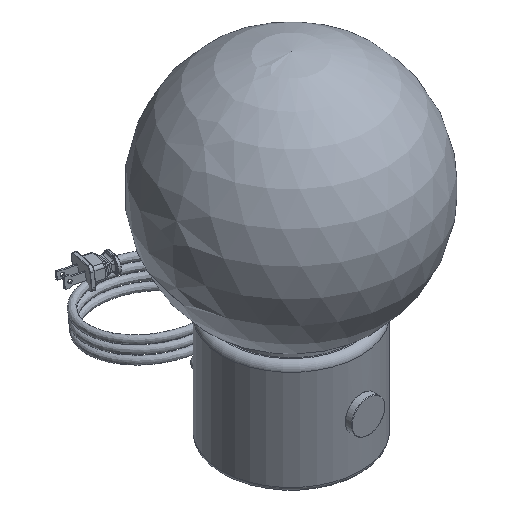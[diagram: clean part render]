
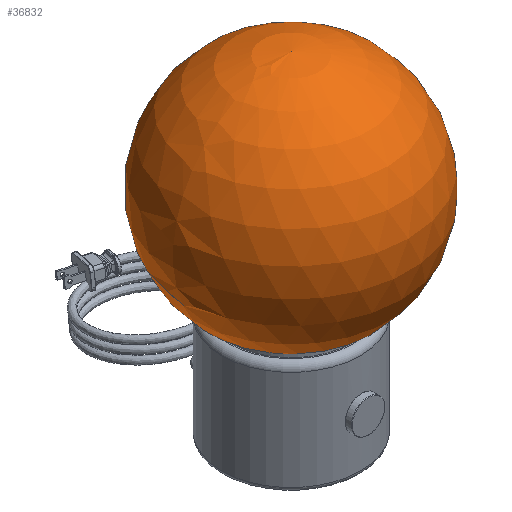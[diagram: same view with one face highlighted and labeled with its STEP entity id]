
A CAD part, isometric view. The second image highlights one B-rep face of the part: STEP entity #36832.
In plain terms, the highlighted spherical face has radius 107.95 mm.
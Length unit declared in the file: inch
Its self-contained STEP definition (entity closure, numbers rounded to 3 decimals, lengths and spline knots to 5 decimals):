
#100=SPHERICAL_SURFACE('',#38635,4.25);
#5962=FACE_OUTER_BOUND('',#8162,.T.);
#8162=EDGE_LOOP('',(#34679,#34680,#34681,#34682));
#15118=CIRCLE('',#38632,2.);
#15119=CIRCLE('',#38633,2.);
#15120=CIRCLE('',#38636,4.25);
#18635=VERTEX_POINT('',#78137);
#18636=VERTEX_POINT('',#78139);
#18637=VERTEX_POINT('',#78144);
#23984=EDGE_CURVE('',#18635,#18636,#15118,.T.);
#23985=EDGE_CURVE('',#18636,#18635,#15119,.T.);
#23986=EDGE_CURVE('',#18637,#18636,#15120,.T.);
#34679=ORIENTED_EDGE('',*,*,#23985,.F.);
#34680=ORIENTED_EDGE('',*,*,#23986,.F.);
#34681=ORIENTED_EDGE('',*,*,#23986,.T.);
#34682=ORIENTED_EDGE('',*,*,#23984,.F.);
#36832=ADVANCED_FACE('',(#5962),#100,.T.);
#38632=AXIS2_PLACEMENT_3D('',#78140,#45137,#45138);
#38633=AXIS2_PLACEMENT_3D('',#78141,#45139,#45140);
#38635=AXIS2_PLACEMENT_3D('',#78143,#45143,#45144);
#38636=AXIS2_PLACEMENT_3D('',#78145,#45145,#45146);
#45137=DIRECTION('center_axis',(0.,0.,-1.));
#45138=DIRECTION('ref_axis',(1.,0.,0.));
#45139=DIRECTION('center_axis',(0.,0.,-1.));
#45140=DIRECTION('ref_axis',(1.,0.,0.));
#45143=DIRECTION('center_axis',(0.,0.,1.));
#45144=DIRECTION('ref_axis',(1.,0.,0.));
#45145=DIRECTION('center_axis',(0.,-1.,0.));
#45146=DIRECTION('ref_axis',(-1.,0.,0.));
#78137=CARTESIAN_POINT('',(2.,0.,-3.75));
#78139=CARTESIAN_POINT('',(-2.,0.,-3.75));
#78140=CARTESIAN_POINT('Origin',(0.,0.,-3.75));
#78141=CARTESIAN_POINT('Origin',(0.,0.,-3.75));
#78143=CARTESIAN_POINT('Origin',(0.,0.,0.));
#78144=CARTESIAN_POINT('',(0.,0.,
4.25));
#78145=CARTESIAN_POINT('Origin',(0.,0.,0.));
